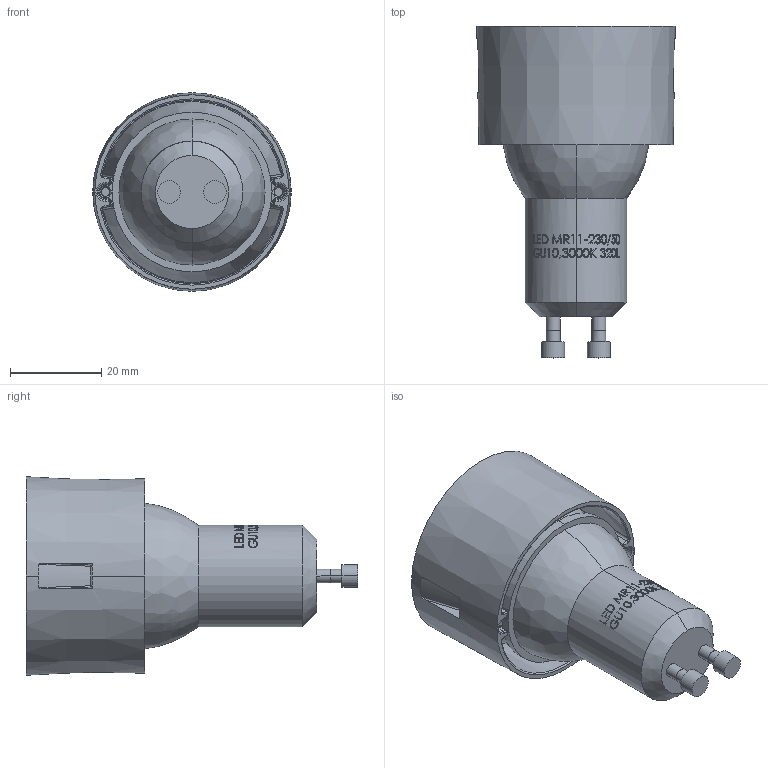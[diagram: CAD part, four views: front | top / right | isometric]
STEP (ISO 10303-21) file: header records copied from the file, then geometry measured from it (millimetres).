
FILE_DESCRIPTION((''),'2;1');
FILE_NAME('MENO-GU10_SW0001','2025-05-15T16:06:05',('elena.baldelli'),(''),'CREO PARAMETRIC BY PTC INC, 2020354','CREO PARAMETRIC BY PTC INC, 2020354','');
FILE_SCHEMA(('CONFIG_CONTROL_DESIGN'));
Products named in the file (1): MENO-GU10_SW0001
Bounding box: 43.5 x 72.7 x 43.5 mm (x, y, z)
Surface area: 15730.8 mm2 (no closed solid volume)
Topology: 0 solids, 5 shells, 287 faces, 863 edges, 623 vertices
Faces by surface type: cylinder 113, bspline 60, torus 40, plane 38, cone 20, sphere 16
Entity records: 43342 total; most frequent: CARTESIAN_POINT 35963, ORIENTED_EDGE 1698, DIRECTION 1341, EDGE_CURVE 863, VERTEX_POINT 623, AXIS2_PLACEMENT_3D 580, CIRCLE 353, EDGE_LOOP 334
